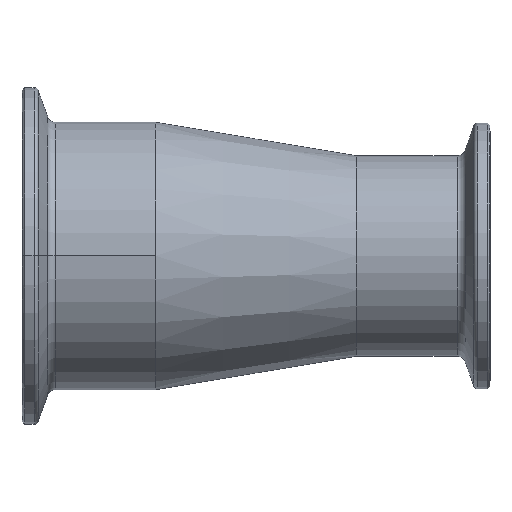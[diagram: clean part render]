
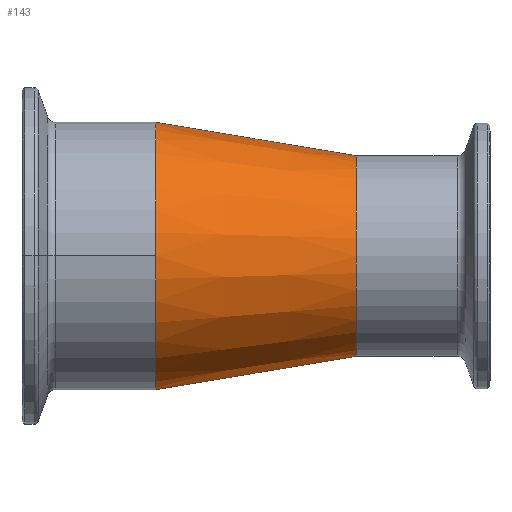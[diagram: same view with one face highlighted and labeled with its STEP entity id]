
A CAD part, top view. The second image highlights one B-rep face of the part: STEP entity #143.
In plain terms, the highlighted conical face has half-angle 9.462 degrees and reference radius 25.4 mm.
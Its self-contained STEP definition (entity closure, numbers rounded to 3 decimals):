
#2 = CARTESIAN_POINT ( 'NONE',  ( -19.05, 0., 0. ) ) ;
#5 = CARTESIAN_POINT ( 'NONE',  ( -19.05, 0., 0. ) ) ;
#15 = DIRECTION ( 'NONE',  ( 1., 0., 0. ) ) ;
#19 = CARTESIAN_POINT ( 'NONE',  ( -19.05, 0., 25.4 ) ) ;
#85 = ORIENTED_EDGE ( 'NONE', *, *, #704, .T. ) ;
#89 = VECTOR ( 'NONE', #371, 1000. ) ;
#104 = CIRCLE ( 'NONE', #785, 25.4 ) ;
#106 = VERTEX_POINT ( 'NONE', #737 ) ;
#109 = DIRECTION ( 'NONE',  ( 0., 1., 0. ) ) ;
#137 = DIRECTION ( 'NONE',  ( -1., 0., 0. ) ) ;
#143 = ADVANCED_FACE ( 'NONE', ( #422 ), #1275, .T. ) ;
#173 = ORIENTED_EDGE ( 'NONE', *, *, #1152, .T. ) ;
#228 = AXIS2_PLACEMENT_3D ( 'NONE', #5, #15, #109 ) ;
#311 = CIRCLE ( 'NONE', #1051, 19.05 ) ;
#333 = CARTESIAN_POINT ( 'NONE',  ( -19.05, 0., 0. ) ) ;
#344 = DIRECTION ( 'NONE',  ( 1., 0., 0. ) ) ;
#371 = DIRECTION ( 'NONE',  ( -0.986, 0.164, 0. ) ) ;
#384 = VERTEX_POINT ( 'NONE', #1478 ) ;
#404 = CARTESIAN_POINT ( 'NONE',  ( -19.05, 25.4, 0. ) ) ;
#422 = FACE_OUTER_BOUND ( 'NONE', #1403, .T. ) ;
#438 = DIRECTION ( 'NONE',  ( 0., 1., 0. ) ) ;
#463 = EDGE_CURVE ( 'NONE', #1054, #1133, #1048, .T. ) ;
#592 = CARTESIAN_POINT ( 'NONE',  ( 19.05, 19.05, 0. ) ) ;
#593 = VERTEX_POINT ( 'NONE', #19 ) ;
#614 = EDGE_CURVE ( 'NONE', #384, #106, #878, .T. ) ;
#638 = DIRECTION ( 'NONE',  ( -0.986, -0.164, 0. ) ) ;
#659 = CARTESIAN_POINT ( 'NONE',  ( -19.05, -25.4, 0. ) ) ;
#704 = EDGE_CURVE ( 'NONE', #1133, #593, #104, .T. ) ;
#737 = CARTESIAN_POINT ( 'NONE',  ( -19.05, -25.4, 0. ) ) ;
#749 = EDGE_CURVE ( 'NONE', #1054, #384, #311, .T. ) ;
#785 = AXIS2_PLACEMENT_3D ( 'NONE', #333, #344, #438 ) ;
#836 = CIRCLE ( 'NONE', #228, 25.4 ) ;
#878 = LINE ( 'NONE', #659, #1550 ) ;
#883 = CARTESIAN_POINT ( 'NONE',  ( -19.05, 25.4, 0. ) ) ;
#935 = ORIENTED_EDGE ( 'NONE', *, *, #749, .F. ) ;
#950 = DIRECTION ( 'NONE',  ( 0., -1., 0. ) ) ;
#1048 = LINE ( 'NONE', #404, #89 ) ;
#1051 = AXIS2_PLACEMENT_3D ( 'NONE', #1082, #1092, #1202 ) ;
#1054 = VERTEX_POINT ( 'NONE', #592 ) ;
#1082 = CARTESIAN_POINT ( 'NONE',  ( 19.05, 0., 0. ) ) ;
#1092 = DIRECTION ( 'NONE',  ( 1., 0., 0. ) ) ;
#1133 = VERTEX_POINT ( 'NONE', #883 ) ;
#1152 = EDGE_CURVE ( 'NONE', #593, #106, #836, .T. ) ;
#1189 = ORIENTED_EDGE ( 'NONE', *, *, #614, .F. ) ;
#1202 = DIRECTION ( 'NONE',  ( 0., 1., 0. ) ) ;
#1275 = CONICAL_SURFACE ( 'NONE', #1383, 25.4, 0.165 ) ;
#1383 = AXIS2_PLACEMENT_3D ( 'NONE', #2, #137, #950 ) ;
#1403 = EDGE_LOOP ( 'NONE', ( #935, #1461, #85, #173, #1189 ) ) ;
#1461 = ORIENTED_EDGE ( 'NONE', *, *, #463, .T. ) ;
#1478 = CARTESIAN_POINT ( 'NONE',  ( 19.05, -19.05, 0. ) ) ;
#1550 = VECTOR ( 'NONE', #638, 1000. ) ;
